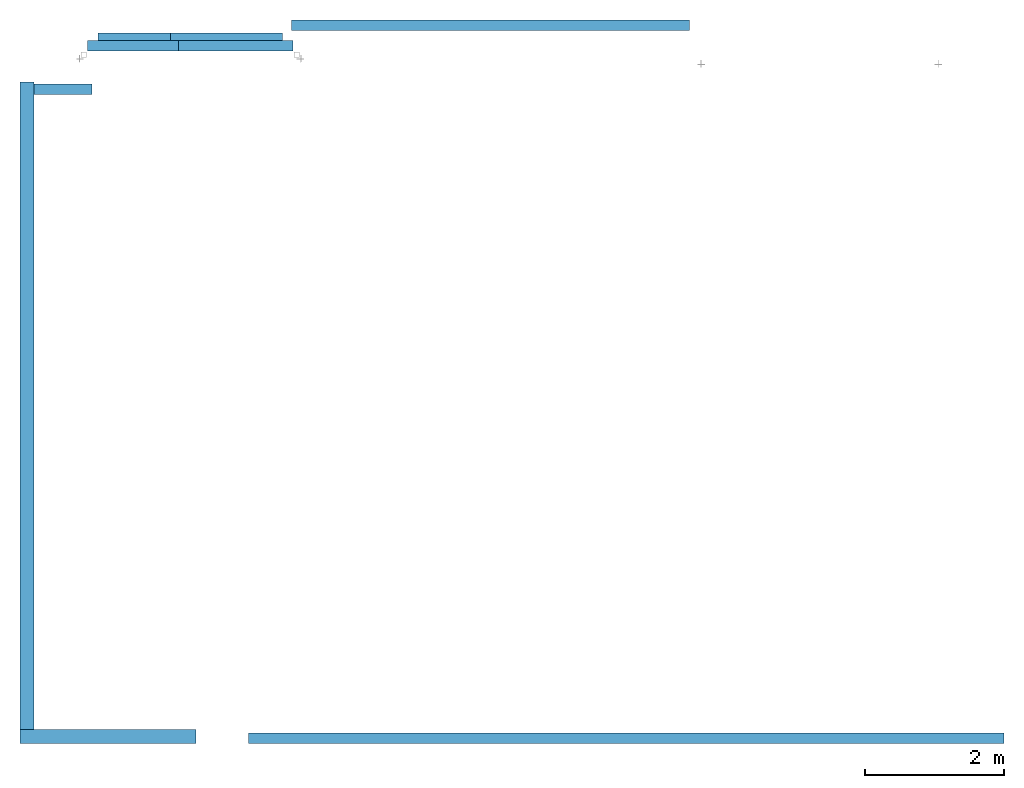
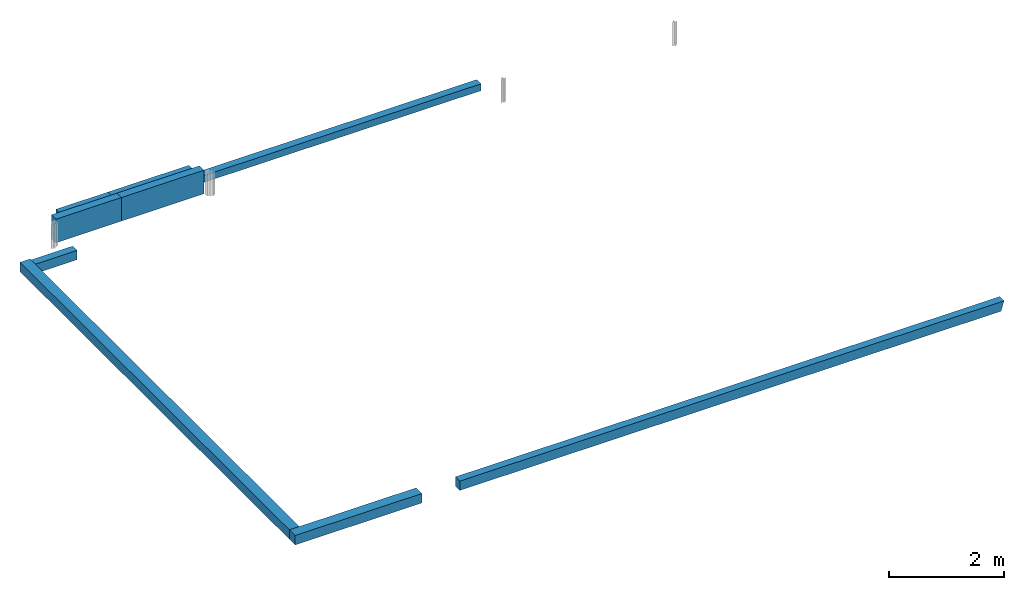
# One storey, part 1 of 3: 9 walls, 1 opening.
"""IFC2X3 building model written with IfcOpenShell, lengths in millimetres."""

from ifc_helpers import new_model, entity, si_unit, converted_unit, derived_unit, direction, frame, frame_2d, origin, origin_with_axes, place, context, subcontext, project, spatial, rectangle, extrude, clip, halfspace, faceted_brep, material, layer, layer_set, layer_usage, type_object, element, save


model = new_model("IFC2X3")

# Units and contexts
model_context = context("Model", 3, precision=0.01, world=frame((0.0, 4.29681676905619e-09, 0.0)), true_north=direction((4.01073788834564e-13, 1.0)))
plan_context = context("Plan", 3, precision=0.01, world=frame((0.0, 4.29681676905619e-09, 0.0)), true_north=direction((4.01073788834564e-13, 1.0)))
body_context = subcontext(model_context, "Body", "Model", "MODEL_VIEW")
ifc_project = project(units=[converted_unit("PLANEANGLEUNIT", "DEGREE", entity("IfcPositiveLengthMeasure", 0.0174532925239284), si_unit("PLANEANGLEUNIT", "RADIAN"), dimensions=[0, 0, 0, 0, 0, 0, 0]), si_unit("AREAUNIT", "SQUARE_METRE"), si_unit("LENGTHUNIT", "METRE", prefix="MILLI"), si_unit("MASSUNIT", "GRAM", prefix="KILO"), si_unit("POWERUNIT", "WATT"), si_unit("PRESSUREUNIT", "PASCAL"), si_unit("FORCEUNIT", "NEWTON", prefix="KILO"), si_unit("ELECTRICVOLTAGEUNIT", "VOLT"), si_unit("ELECTRICCURRENTUNIT", "AMPERE"), si_unit("THERMODYNAMICTEMPERATUREUNIT", "DEGREE_CELSIUS"), si_unit("TIMEUNIT", "SECOND"), si_unit("VOLUMEUNIT", "CUBIC_METRE"), derived_unit("LINEARVELOCITYUNIT", [(si_unit("LENGTHUNIT", "METRE"), 1), (si_unit("TIMEUNIT", "SECOND"), -1)]), derived_unit("VOLUMETRICFLOWRATEUNIT", [(si_unit("VOLUMEUNIT", "CUBIC_METRE"), 1), (si_unit("TIMEUNIT", "SECOND"), -1)]), derived_unit("THERMALTRANSMITTANCEUNIT", [(si_unit("POWERUNIT", "WATT"), 1), (si_unit("THERMODYNAMICTEMPERATUREUNIT", "KELVIN"), -1), (si_unit("AREAUNIT", "SQUARE_METRE"), -1)]), derived_unit("SOUNDPRESSUREUNIT", [(si_unit("PRESSUREUNIT", "PASCAL"), 1)])], contexts=[model_context, plan_context])

# Site, building, storey
site_placement = place(None, origin_with_axes())
site = spatial("IfcSite", under=ifc_project, at=site_placement, Name="ENGM", CompositionType="ELEMENT")
building_placement = place(site_placement, origin_with_axes())
building = spatial("IfcBuilding", under=site, at=building_placement, Name="TI", CompositionType="ELEMENT")
storey_placement = place(building_placement, frame((0.0, 0.0, 213700.0), z_axis=(0.0, 0.0, 1.0), x_axis=(1.0, 0.0, 0.0)))
storey = spatial("IfcBuildingStorey", under=building, at=storey_placement, Name="Nivå G - 2,0m", CompositionType="ELEMENT", Elevation=213700.0)

# Walls
ifc_material_1 = material(Name="T2_Gips Fibergips")
ifc_layer_1 = layer(ifc_material_1, 12.5)
ifc_material_2 = material(Name="T2_Gips Protect F")
ifc_layer_2 = layer(ifc_material_2, 15.0)
ifc_material_3 = material(Name="_NSW Stålstender, uisolert")
ifc_layer_3 = layer(ifc_material_3, 100.0)
ifc_layer_4 = layer(ifc_material_2, 15.0)
ifc_layer_5 = layer(ifc_material_1, 12.5)
ifc_layer_set_1 = layer_set([ifc_layer_1, ifc_layer_2, ifc_layer_3, ifc_layer_4, ifc_layer_5], Name="Basic Wall:A241 - RVF-103")
wall_type_1 = type_object("IfcWallType", Name="Basic Wall:A241 - RVF-103", PredefinedType="STANDARD", material=ifc_layer_set_1)
wall_1_placement = place(storey_placement, frame((602007.996582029, 699104.999999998, 0.0), z_axis=(0.0, 0.0, 1.0), x_axis=(-1.0, 0.0, 0.0)))
element("IfcWall", 1, at=wall_1_placement, inside=storey, type_object=wall_type_1, Name="Basic Wall:A241 - RVF-103", ObjectType="Basic Wall:A241 - RVF-103", context=body_context, shape_type="Brep", body=[
    faceted_brep([(1655.99257812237, -77.5000000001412, 500.0), (1655.9925781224, 77.499999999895, 500.0), (1655.9925781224, 77.499999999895, 0.0), (1655.9925781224, -77.5000000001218, 0.0), (3.46744855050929e-11, 77.499999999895, 500.0), (3.46744855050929e-11, 77.499999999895, 0.0), (3.46744855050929e-11, -77.5000000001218, 500.0), (3.46744855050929e-11, -77.5000000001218, 0.0)], [[[0, 1, 2, 3]], [[1, 4, 5, 2]], [[4, 6, 7, 5]], [[6, 0, 3, 7]], [[3, 2, 5, 7]], [[6, 4, 1, 0]]], orient=[[False], [False], [False], [False], [False], [False]]),
])
wall_2_placement = place(storey_placement, frame((600352.004003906, 699104.999999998, 0.0), z_axis=(0.0, 0.0, 1.0), x_axis=(-1.0, 0.0, 0.0)))
element("IfcWall", 2, at=wall_2_placement, inside=storey, type_object=wall_type_1, Name="Basic Wall:A241 - RVF-103", ObjectType="Basic Wall:A241 - RVF-103", context=body_context, shape_type="Brep", body=[
    faceted_brep([(1310.00000000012, -77.499999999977, 500.0), (1310.00000000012, 77.5000000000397, 500.0), (1310.00000000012, 77.5000000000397, 0.0), (1310.00000000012, -77.499999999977, 0.0), (3.46744855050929e-11, 77.5000000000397, 500.0), (3.46744855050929e-11, 77.5000000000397, 0.0), (3.46744855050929e-11, -77.499999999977, 500.0), (3.46744855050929e-11, -77.499999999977, 0.0)], [[[0, 1, 2, 3]], [[1, 4, 5, 2]], [[4, 6, 7, 5]], [[6, 0, 3, 7]], [[3, 2, 5, 7]], [[6, 4, 1, 0]]], orient=[[False], [False], [False], [False], [False], [False]]),
])
ifc_material_4 = material(Name="Plate - Gips")
ifc_layer_6 = layer(ifc_material_4, 12.5)
ifc_layer_7 = layer(ifc_material_4, 12.5)
ifc_layer_8 = layer(ifc_material_3, 100.0)
ifc_layer_9 = layer(ifc_material_4, 12.5)
ifc_layer_10 = layer(ifc_material_4, 12.5)
ifc_layer_set_2 = layer_set([ifc_layer_6, ifc_layer_7, ifc_layer_8, ifc_layer_9, ifc_layer_10], Name="Basic Wall:A241 - RVR-101")
wall_type_2 = type_object("IfcWallType", Name="Basic Wall:A241 - RVR-101", PredefinedType="STANDARD", material=ifc_layer_set_2)
wall_3_placement = place(storey_placement, frame((601980.496582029, 699400.5, 0.0), z_axis=(0.0, 0.0, 1.0), x_axis=(1.0, 0.0, 0.0)))
element("IfcWall", 3, at=wall_3_placement, inside=storey, type_object=wall_type_2, Name="Basic Wall:A241 - RVR-101", ObjectType="Basic Wall:A241 - RVR-101", context=body_context, shape_type="Brep", body=[
    faceted_brep([(5739.51025390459, -75.0, 145.0), (4114.51025392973, -75.0, 145.0), (0.0, -75.0, 145.0), (0.0, -75.0, 0.0), (5739.51025390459, -75.0, 0.0), (0.0, 75.0, 145.0), (4114.51025392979, 75.0, 145.0), (5739.51025390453, 75.0, 145.0), (5739.51025390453, 75.0, 0.0), (0.0, 75.0, 0.0)], [[[0, 1, 2, 3, 4]], [[5, 6, 7, 8, 9]], [[7, 0, 4, 8]], [[1, 0, 7, 6]], [[2, 5, 9, 3]], [[2, 1, 6, 5]], [[4, 3, 9, 8]]]),
])
ifc_layer_11 = layer(ifc_material_4, 13.0)
ifc_material_5 = material(Name="_NSW X-finer")
ifc_layer_12 = layer(ifc_material_5, 12.0)
ifc_layer_13 = layer(ifc_material_3, 100.0)
ifc_layer_14 = layer(ifc_material_5, 12.0)
ifc_layer_15 = layer(ifc_material_4, 13.0)
ifc_layer_set_3 = layer_set([ifc_layer_11, ifc_layer_12, ifc_layer_13, ifc_layer_14, ifc_layer_15], Name="Basic Wall:A241 - SXVXS-100")
wall_type_3 = type_object("IfcWallType", Name="Basic Wall:A241 - SXVXS-100", PredefinedType="STANDARD", material=ifc_layer_set_3)
wall_4_placement = place(storey_placement, frame((612254.023798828, 689124.999999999, 0.0), z_axis=(0.0, 0.0, 1.0), x_axis=(-1.0, 0.0, 0.0)))
element("IfcWall", 4, at=wall_4_placement, inside=storey, type_object=wall_type_3, Name="Basic Wall:A241 - SXVXS-100", ObjectType="Basic Wall:A241 - SXVXS-100", context=body_context, shape_type="Brep", body=[
    faceted_brep([(10887.1195197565, -75.0, 198.0), (0.0, -75.0, 198.0), (56.5744384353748, -75.0, 0.0), (10887.1195197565, -75.0, 0.0), (0.0, 75.0, 198.0), (10887.1195197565, 75.0, 198.0), (10887.1195197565, 75.0, 0.0), (56.5744384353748, 75.0, 0.0)], [[[0, 1, 2, 3]], [[4, 5, 6, 7]], [[5, 0, 3, 6]], [[1, 0, 5, 4]], [[1, 4, 7, 2]], [[3, 2, 7, 6]]]),
])
ifc_layer_usage_1 = layer_usage(ifc_layer_set_3, "AXIS2", "NEGATIVE", 75.0)
wall_5_placement = place(storey_placement, frame((598269.99999994, 698477.499999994, 0.0), z_axis=(0.0, 0.0, 1.0), x_axis=(1.0, 0.0, 0.0)))
element("IfcWallStandardCase", 5, at=wall_5_placement, inside=storey, type_object=wall_type_3, material=ifc_layer_usage_1, Name="Basic Wall:A241 - SXVXS-100", ObjectType="Basic Wall:A241 - SXVXS-100", context=body_context, shape_type="Clipping", body=[
    clip(extrude(rectangle(XDim=835.003222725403, YDim=149.999999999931, at=frame_2d((417.501611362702, 6.93063384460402e-11), x_axis=(-1.0, 0.0))), origin(), (0.0, 0.0, 1.0), 198.000000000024), halfspace(frame((0.0, 0.0, -2800.0)), True)),
])
ifc_layer_16 = layer(ifc_material_2, 15.0)
ifc_layer_17 = layer(ifc_material_2, 15.0)
ifc_layer_18 = layer(ifc_material_3, 75.0)
ifc_layer_set_4 = layer_set([ifc_layer_16, ifc_layer_17, ifc_layer_18], Name="Basic Wall:A241 - FV-75")
wall_type_4 = type_object("IfcWallType", Name="Basic Wall:A241 - FV-75", PredefinedType="STANDARD", material=ifc_layer_set_4)
wall_6_placement = place(storey_placement, frame((601852.996582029, 699234.999999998, 0.0), z_axis=(0.0, 0.0, 1.0), x_axis=(-1.0, 0.0, 0.0)))
element("IfcWall", 6, at=wall_6_placement, inside=storey, type_object=wall_type_4, Name="Basic Wall:A241 - FV-75", ObjectType="Basic Wall:A241 - FV-75", context=body_context, shape_type="Brep", body=[
    faceted_brep([(1615.9827148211, -52.4999999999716, 500.0), (1615.9827148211, 52.5000000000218, 500.0), (1615.9827148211, 52.5000000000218, 0.0), (1615.9827148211, -52.4999999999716, 0.0), (3.46744855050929e-11, 52.5000000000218, 500.0), (3.46744855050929e-11, 52.5000000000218, 0.0), (3.46744855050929e-11, -52.4999999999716, 500.0), (3.46744855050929e-11, -52.4999999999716, 0.0)], [[[0, 1, 2, 3]], [[1, 4, 5, 2]], [[4, 6, 7, 5]], [[6, 0, 3, 7]], [[3, 2, 5, 7]], [[6, 4, 1, 0]]], orient=[[False], [False], [False], [False], [False], [False]]),
])
wall_7_placement = place(storey_placement, frame((600237.013867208, 699234.999999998, 0.0), z_axis=(0.0, 0.0, 1.0), x_axis=(-1.0, 0.0, 0.0)))
element("IfcWall", 7, at=wall_7_placement, inside=storey, type_object=wall_type_4, Name="Basic Wall:A241 - FV-75", ObjectType="Basic Wall:A241 - FV-75", context=body_context, shape_type="Brep", body=[
    faceted_brep([(1039.51386720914, -52.5000000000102, 500.0), (1039.51386720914, 52.4999999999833, 500.0), (1039.51386720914, 52.4999999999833, 0.0), (1039.51386720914, -52.5000000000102, 0.0), (3.45607986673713e-11, 52.4999999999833, 500.0), (3.45607986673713e-11, 52.4999999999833, 0.0), (3.45607986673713e-11, -52.5000000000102, 500.0), (3.45607986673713e-11, -52.5000000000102, 0.0)], [[[0, 1, 2, 3]], [[1, 4, 5, 2]], [[4, 6, 7, 5]], [[6, 0, 3, 7]], [[3, 2, 5, 7]], [[6, 4, 1, 0]]], orient=[[False], [False], [False], [False], [False], [False]]),
])

# Wall, opening
ifc_material_6 = material(Name="T2 - Stål")
ifc_layer_19 = layer(ifc_material_6, 200.0)
ifc_layer_set_5 = layer_set([ifc_layer_19], Name="Basic Wall:A245 - Butikkfasader bjelke/kasse")
ifc_layer_usage_2 = layer_usage(ifc_layer_set_5, "AXIS2", "NEGATIVE", 100.0)
wall_type_5 = type_object("IfcWallType", Name="Basic Wall:A245 - Butikkfasader bjelke/kasse", PredefinedType="STANDARD", material=ifc_layer_set_5)
wall_8_placement = place(storey_placement, frame((598169.999999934, 689249.999999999, 0.0), z_axis=(0.0, 0.0, 1.0), x_axis=(0.0, 1.0, 0.0)))
wall_8 = element("IfcWallStandardCase", 8, at=wall_8_placement, inside=storey, type_object=wall_type_5, material=ifc_layer_usage_2, Name="Basic Wall:A245 - Butikkfasader bjelke/kasse", ObjectType="Basic Wall:A245 - Butikkfasader bjelke/kasse", context=body_context, shape_type="Clipping", body=[
    clip(extrude(rectangle(XDim=9334.99999999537, YDim=200.000000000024, at=frame_2d((4667.49999999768, -3.46531692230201e-11), x_axis=(-1.0, 0.0))), origin(), (0.0, 0.0, 1.0), 200.000000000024), halfspace(frame((0.0, 0.0, -2800.0)), True)),
])
opening_placement = place(wall_8_placement, origin_with_axes())
element("IfcOpeningElement", 9, at=opening_placement, cuts=wall_8, Name="Basic Wall:A245 - Butikkfasader bjelke/kasse", ObjectType="Opening", context=body_context, shape_type="SweptSolid", body=[
    extrude(rectangle(XDim=2499.99999999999, YDim=4609.99999999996, at=frame_2d((0.0, 6.93489710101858e-11), x_axis=(1.0, 0.0))), frame((6917.50083063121, -1623.97383553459, -1550.0), z_axis=(0.0, 1.0, 0.0), x_axis=(0.0, 0.0, 1.0)), (0.0, 0.0, 1.0), 3048.0),
])

# Wall
ifc_layer_usage_3 = layer_usage(ifc_layer_set_5, "AXIS2", "NEGATIVE", 100.0)
wall_9_placement = place(storey_placement, frame((598069.999999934, 689149.999999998, 0.0), z_axis=(0.0, 0.0, 1.0), x_axis=(1.0, 0.0, 0.0)))
element("IfcWallStandardCase", 10, at=wall_9_placement, inside=storey, type_object=wall_type_5, material=ifc_layer_usage_3, Name="Basic Wall:A245 - Butikkfasader bjelke/kasse", ObjectType="Basic Wall:A245 - Butikkfasader bjelke/kasse", context=body_context, shape_type="Clipping", body=[
    clip(extrude(rectangle(XDim=2535.00000006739, YDim=199.999999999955, at=frame_2d((1267.5000000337, 7.7839956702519e-11), x_axis=(-1.0, 0.0))), origin(), (0.0, 0.0, 1.0), 200.000000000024), halfspace(frame((0.0, 0.0, -2800.0)), True)),
])

save(model, "model.ifc")
